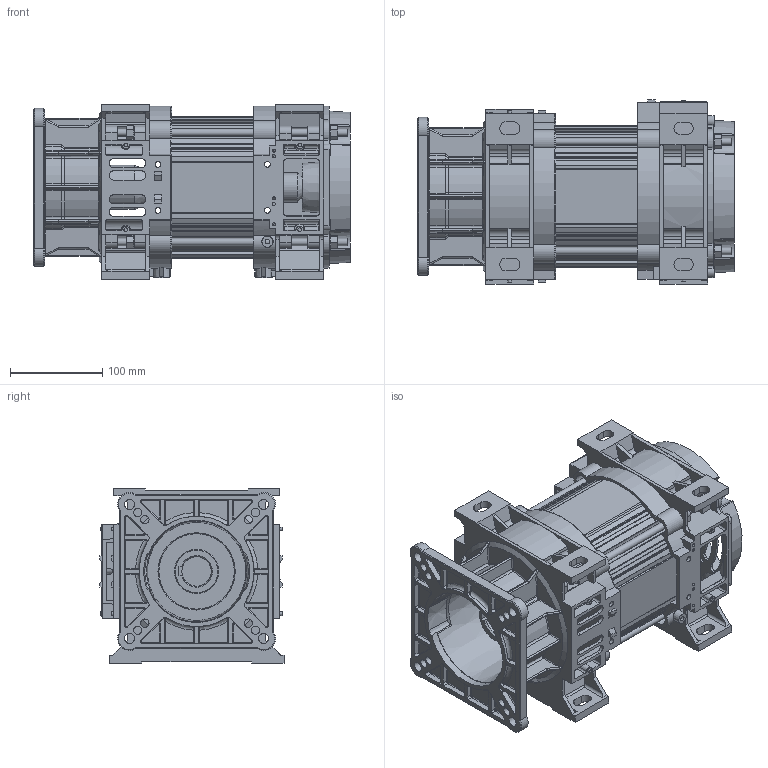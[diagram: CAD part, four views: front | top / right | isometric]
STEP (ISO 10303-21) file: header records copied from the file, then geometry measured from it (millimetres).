
FILE_DESCRIPTION(/* description */ ('Motore Tipo S4X Fl.111.1 F32-H110 NO Volano NO Piedi'),/* implementation_level */ '2;1');
FILE_NAME(/* name */ 'Y:\ServerTecnico\Mockup Motori x Sito Elmo\Mockup Tipo S4X Size 1 FL111 F32-H110 NO Volano.stp',/* time_stamp */ '2019-05-27T11:39:08+02:00',/* author */ ('aparmini'),/* organization */ (''),/* preprocessor_version */ 'ST-DEVELOPER v16.5',/* originating_system */ 'Autodesk Inventor 2017',/* authorisation */ '');
FILE_SCHEMA (('AUTOMOTIVE_DESIGN { 1 0 10303 214 3 1 1 }'));
Products named in the file (8): Mockup Tipo S4X Size 1 FL111 F32-H110 NO Volano; Mockup Statore Size 1 - F32-H110 NO Volano; TGS10; Mockup CA1SD111N; Mockup CP1XD040N; TI08ML250; UNI 5587 - M8; DIN 125-2 - B 8,4
Assembly tree (20 placements, depth 2):
  Mockup Tipo S4X Size 1 FL111 F32-H110 NO Volano
    Mockup Statore Size 1 - F32-H110 NO Volano
    TGS10
    Mockup CA1SD111N
    Mockup CP1XD040N
    UNI 5587 - M8  x8
    TI08ML250  x4
    DIN 125-2 - B 8,4  x4
Bounding box: 344 x 200 x 190 mm (x, y, z)
Volume: 3730648.6 mm3; surface area: 739210.2 mm2
Topology: 20 solids, 20 shells, 2588 faces, 7036 edges, 4479 vertices
Faces by surface type: plane 1009, cylinder 966, bspline 251, cone 246, torus 100, sphere 16
Full cylindrical faces by diameter (mm): 3.2 x5, 4 x8, 4.917 x2, 5 x4, 6.2 x8, 6.647 x8, 8 x4, 8.4 x4, 9 x8, 10 x8, 11 x4, 12 x4, 16 x4, 17 x1, 21 x1, 32 x2, 38 x1, 48 x1, 82 x1
Entity records: 82949 total; most frequent: CARTESIAN_POINT 21117, DIRECTION 13108, ORIENTED_EDGE 13014, EDGE_CURVE 6495, AXIS2_PLACEMENT_3D 4905, VERTEX_POINT 4230, LINE 3298, VECTOR 3298
